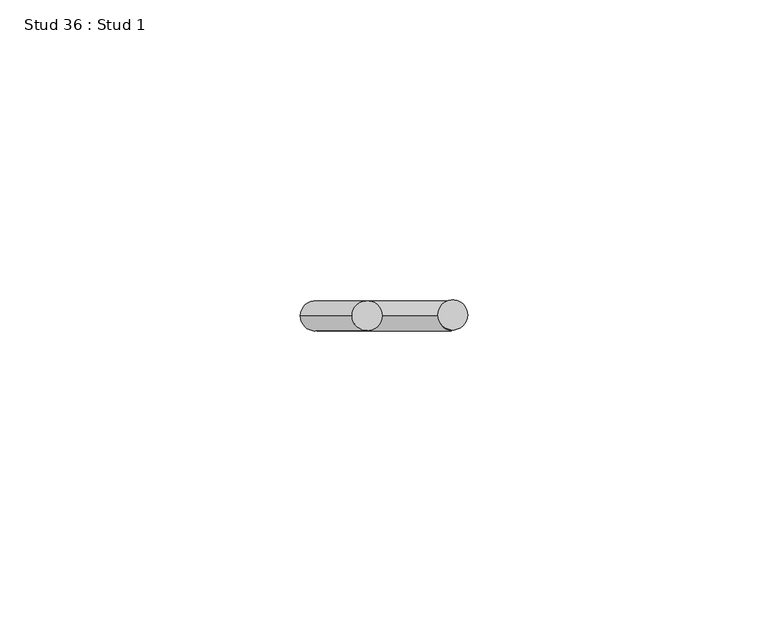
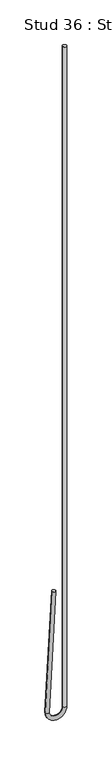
"""IFC4 building model written with IfcOpenShell, lengths in millimetres: proxy geometry, Stud 36 : Stud 1."""

from ifc_helpers import new_model, si_unit, point, frame, origin, place, context, project, spatial, circle_curve, ellipse_curve, trimmed, source, transform, mapped, element, save
from ifc_brep_helpers import plane_surface, cylinder_surface, revolved_surface, advanced_brep


def stud_36_stud_1_ed0e4c24(model_context):
    return source(origin(), model_context, "Body", "AdvancedBrep", [
        advanced_brep(
        [(-14671.4532788, 7110.5191481, 3640.800192), (-14666.4601311, 7110.5191481, 3640.5385122), (-14680.0939451, 7110.5191481, 3475.9264558), (-14675.1007975, 7110.5191481, 3475.664776), (-14657.1920812, 7110.5191481, 3475.7956159), (-14652.1920812, 7110.5191481, 3475.7956159), (-14652.1920812, 7110.5191481, 4390.1956159), (-14657.1920812, 7110.5191481, 4390.1956159)],
        [
            (0, 1, circle_curve(frame((-14668.9567049, 7110.5191481, 3640.6693521), z_axis=(0.05233595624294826, 0.0, 0.9986295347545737), x_axis=(0.9986295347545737, 0.0, -0.05233595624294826)), 2.5)),
            (1, 0, circle_curve(frame((-14668.9567049, 7110.5191481, 3640.6693521), z_axis=(0.05233595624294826, 0.0, 0.9986295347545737), x_axis=(0.9986295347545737, 0.0, -0.05233595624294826)), 2.5)),
            (0, 2),
            (2, 3, circle_curve(frame((-14677.5973713, 7110.5191481, 3475.7956159), z_axis=(0.05233595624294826, 0.0, 0.9986295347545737), x_axis=(0.9986295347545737, 0.0, -0.05233595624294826)), 2.5)),
            (3, 1),
            (3, 2, circle_curve(frame((-14677.5973713, 7110.5191481, 3475.7956159), z_axis=(0.05233595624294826, 0.0, 0.9986295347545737), x_axis=(0.9986295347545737, 0.0, -0.05233595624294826)), 2.5)),
            (4, 3, circle_curve(frame((-14666.1447263, 7110.5191481, 3475.7956159), z_axis=(0.0, 1.0, 0.0), x_axis=(-1.0, 0.0, 0.0)), 8.952645)),
            (2, 5, circle_curve(frame((-14666.1447263, 7110.5191481, 3475.7956159), z_axis=(0.0, -1.0, 0.0), x_axis=(-1.0, 0.0, 0.0)), 13.952645)),
            (5, 4, circle_curve(frame((-14654.6920812, 7110.5191481, 3475.7956159), z_axis=(0.0, 0.0, -1.0), x_axis=(-1.0, 0.0, 0.0)), 2.5)),
            (4, 5, circle_curve(frame((-14654.6920812, 7110.5191481, 3475.7956159), z_axis=(0.0, 0.0, -1.0), x_axis=(-1.0, 0.0, 0.0)), 2.5)),
            (6, 7, circle_curve(frame((-14654.6920812, 7110.5191481, 4390.1956159), z_axis=(0.0, 0.0, 1.0), x_axis=(-1.0, 0.0, 0.0)), 2.5)),
            (7, 6, circle_curve(frame((-14654.6920812, 7110.5191481, 4390.1956159), z_axis=(0.0, 0.0, 1.0), x_axis=(-1.0, 0.0, 0.0)), 2.5)),
            (5, 6),
            (7, 4),
        ],
        [
            plane_surface(frame((-14668.9567049, 7704.2441481, 3640.6693521), z_axis=(0.05233595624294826, 0.0, 0.9986295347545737), x_axis=(0.0, -1.0, 0.0))),
            cylinder_surface(frame((-14668.9567049, 7110.5191481, 3640.6693521), z_axis=(0.05233595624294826, 0.0, 0.9986295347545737), x_axis=(0.9986295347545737, 0.0, -0.05233595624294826)), 2.5),
            revolved_surface(trimmed(ellipse_curve(frame((-14677.5973713, 7110.5191481, 3475.7956159), z_axis=(0.0, 0.0, 1.0), x_axis=(1.0, 0.0, 0.0)), 2.5, 2.5), [point((-14680.0973713, 7110.5191481, 3475.7956159))], [point((-14675.0973713, 7110.5191481, 3475.7956159))], True, "CARTESIAN"), (-14666.1447263, 7704.2441481, 3475.7956159), (0.0, -1.0, 0.0)),
            revolved_surface(trimmed(ellipse_curve(frame((-14677.5973713, 7110.5191481, 3475.7956159), z_axis=(0.0, 0.0, 1.0), x_axis=(1.0, 0.0, 0.0)), 2.5, 2.5), [point((-14675.0973713, 7110.5191481, 3475.7956159))], [point((-14680.0973713, 7110.5191481, 3475.7956159))], True, "CARTESIAN"), (-14666.1447263, 7704.2441481, 3475.7956159), (0.0, -1.0, 0.0)),
            plane_surface(frame((-14654.6920812, 7704.2441481, 4390.1956159), z_axis=(0.0, 0.0, 1.0), x_axis=(0.0, -1.0, 0.0))),
            cylinder_surface(frame((-14654.6920812, 7110.5191481, 3475.7956159), z_axis=(0.0, 0.0, -1.0), x_axis=(-1.0, 0.0, 0.0)), 2.5),
        ],
        [
            (0, [[1, 2]]),
            (1, [[-1, 3, 4, 5]]),
            (1, [[-2, -5, 6, -3]]),
            (2, [[7, -4, 8, 9]]),
            (3, [[-8, -6, -7, 10]]),
            (4, [[11, 12]]),
            (5, [[-9, 13, -12, 14]]),
            (5, [[-10, -14, -11, -13]]),
        ],
    ),
    ])


if __name__ == "__main__":
    model = new_model("IFC4")
    model_context = context("Model", 3, world=origin())
    ifc_project = project(units=[si_unit("LENGTHUNIT", "METRE", prefix="MILLI")], contexts=[model_context])
    site = spatial("IfcSite", under=ifc_project)
    building = spatial("IfcBuilding", under=site)
    placement = place(None, origin())
    stud_36_stud_1_shape = stud_36_stud_1_ed0e4c24(model_context)
    element("IfcBuildingElementProxy", 1, Name="Stud 36 : Stud 1", ObjectType="Stud 36 : Stud 1", at=placement, inside=building, context=model_context, shape_type="MappedRepresentation", body=[
        mapped(stud_36_stud_1_shape, transform((0.0, 0.0, 0.0), x_axis=(1.0, 0.0, 0.0), y_axis=(0.0, 1.0, 0.0), z_axis=(0.0, 0.0, 1.0))),
    ])
    save(model, "model.ifc")
